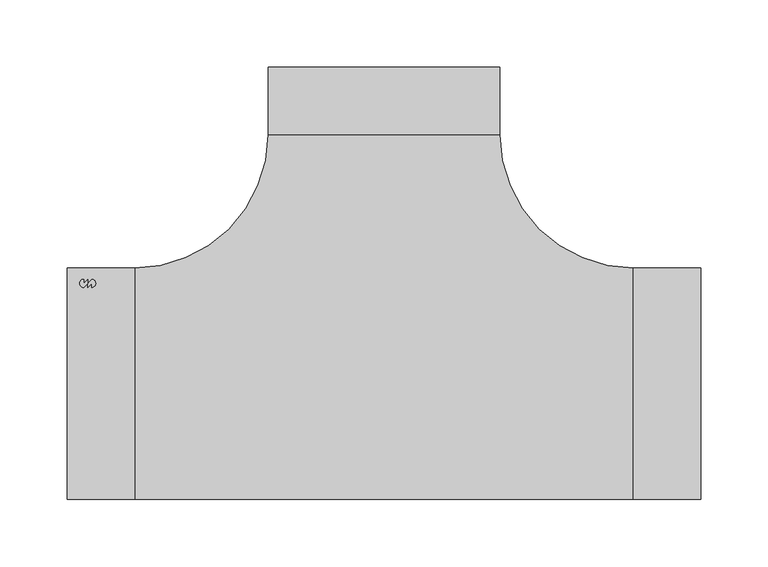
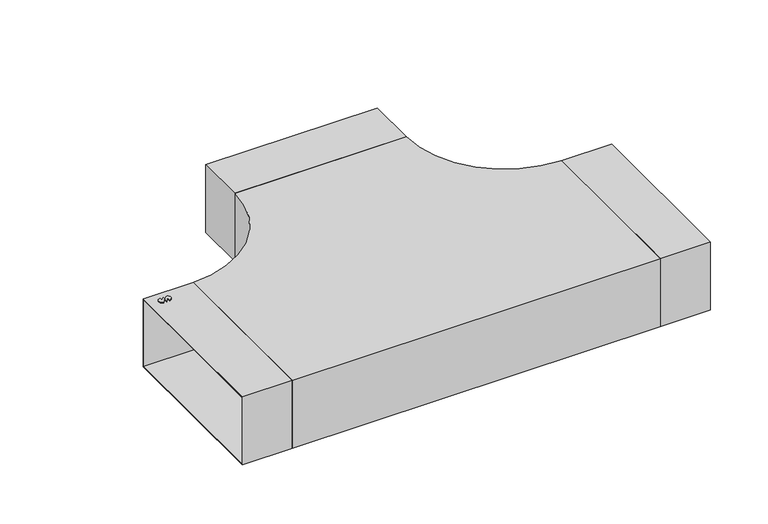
"""IFC4 building model written with IfcOpenShell, lengths in millimetres: duct fitting geometry, NLRS_57_DUF_UN_instortkanaal-stromend-T-stuk-90_LT_velu : T-stuk 90 stromend."""

import ifcopenshell
import ifcopenshell.guid

model = None  # the IFC model being written
_history = None  # IfcOwnerHistory: only IFC2X3 demands one
_inside = {}  # id of a spatial element -> (the spatial element, [elements in it])
_under = {}  # id of a project, library or spatial element -> (it, [spatial elements below it])
_declared = {}  # id of a project -> (the project, [libraries it declares])
_typed = {}  # id of a type object -> (the type object, [elements of that type])
_made_of = {}  # id of a material, layer set ... -> (it, [elements and type objects made of it])


def new_model(schema):
    """Start an empty IFC model of exactly this schema.

    Asked for "IFC4X3", IfcOpenShell would pick the latest addendum, in which some entities
    have other attributes; the version numbers below select the first issue.
    IFC2X3 requires an IfcOwnerHistory on every rooted entity: one is made here for all.
    """
    global model, _history
    if schema == "IFC4X3":
        model = ifcopenshell.file(schema_version=(4, 3, 0, 0))
    else:
        model = ifcopenshell.file(schema=schema)
    _inside.clear()
    _under.clear()
    _declared.clear()
    _typed.clear()
    _made_of.clear()
    _history = None
    if model.schema == "IFC2X3":
        org = make("IfcOrganization", Name="unknown")
        user = make(
            "IfcPersonAndOrganization",
            ThePerson=make("IfcPerson", FamilyName="unknown"),
            TheOrganization=org,
        )
        app = make(
            "IfcApplication",
            ApplicationDeveloper=org,
            Version="unknown",
            ApplicationFullName="unknown",
            ApplicationIdentifier="unknown",
        )
        _history = make(
            "IfcOwnerHistory",
            OwningUser=user,
            OwningApplication=app,
            ChangeAction="ADDED",
            CreationDate=0,
        )
    return model


def make(cls, **values):
    """One entity of the class cls with the attributes given. An attribute that is None is left unset."""
    return model.create_entity(
        cls, **{name: value for name, value in values.items() if value is not None}
    )


def rooted(cls, **values):
    """An entity with a GlobalId (a new one), such as an element, a storey or a relation."""
    return make(cls, GlobalId=ifcopenshell.guid.new(), OwnerHistory=_history, **values)


def si_unit(unit_type, name, prefix=None):
    """IfcSIUnit, for example si_unit("LENGTHUNIT", "METRE", prefix="MILLI")."""
    return make("IfcSIUnit", UnitType=unit_type, Prefix=prefix, Name=name)


def assignment(units):
    """IfcUnitAssignment: the units of a project."""
    return None if units is None else make("IfcUnitAssignment", Units=units)


def point(xyz):
    """IfcCartesianPoint."""
    return None if xyz is None else make("IfcCartesianPoint", Coordinates=xyz)


def direction(xyz):
    """IfcDirection."""
    return None if xyz is None else make("IfcDirection", DirectionRatios=xyz)


def frame(location, z_axis=None, x_axis=None):
    """IfcAxis2Placement3D, a coordinate frame: its origin and axes. An axis left out is left unset."""
    return make(
        "IfcAxis2Placement3D",
        Location=point(location),
        Axis=direction(z_axis),
        RefDirection=direction(x_axis),
    )


def frame_2d(location, x_axis=None):
    """IfcAxis2Placement2D, a coordinate frame in the plane: its origin and x axis."""
    return make(
        "IfcAxis2Placement2D", Location=point(location), RefDirection=direction(x_axis)
    )


def origin():
    """The frame at (0, 0, 0) with its axes left unset."""
    return frame((0.0, 0.0, 0.0))


def place(relative_to, where):
    """IfcLocalPlacement: puts the frame where relative to a parent placement (None: the world)."""
    return make(
        "IfcLocalPlacement", PlacementRelTo=relative_to, RelativePlacement=where
    )


def context(
    kind, dimensions, precision=None, world=None, true_north=None, identifier=None
):
    """IfcGeometricRepresentationContext, for example the 3D "Model" context."""
    return make(
        "IfcGeometricRepresentationContext",
        ContextIdentifier=identifier,
        ContextType=kind,
        CoordinateSpaceDimension=dimensions,
        Precision=precision,
        WorldCoordinateSystem=world,
        TrueNorth=true_north,
    )


def project(units=None, contexts=None):
    """IfcProject with its units and contexts."""
    return rooted(
        "IfcProject",
        Name="project",
        RepresentationContexts=contexts,
        UnitsInContext=assignment(units),
    )


def spatial(cls, under=None, at=None, **own):
    """A site, building, storey or space (cls), placed at a placement, below another one or the project."""
    s = rooted(cls, ObjectPlacement=at, **own)
    if under is not None:
        _under.setdefault(under.id(), (under, []))[1].append(s)
    return s


def polyline(points):
    """IfcPolyline through the points."""
    return make("IfcPolyline", Points=[point(p) for p in points])


def circle_curve(where, radius):
    """IfcCircle in the frame where."""
    return make("IfcCircle", Position=where, Radius=radius)


def trimmed(basis, trim1, trim2, sense, master):
    """IfcTrimmedCurve: the piece of a basis curve between two trims."""
    return make(
        "IfcTrimmedCurve",
        BasisCurve=basis,
        Trim1=trim1,
        Trim2=trim2,
        SenseAgreement=sense,
        MasterRepresentation=master,
    )


def segment(curve, same_sense, transition):
    """IfcCompositeCurveSegment."""
    return make(
        "IfcCompositeCurveSegment",
        Transition=transition,
        SameSense=same_sense,
        ParentCurve=curve,
    )


def composite_curve(segments, self_intersect=None):
    """IfcCompositeCurve: segments joined end to end."""
    return make("IfcCompositeCurve", Segments=segments, SelfIntersect=self_intersect)


def outline(outer, holes=None, kind="AREA"):
    """IfcArbitraryClosedProfileDef: a profile drawn as a closed curve; with holes, ...WithVoids."""
    if holes is None:
        return make("IfcArbitraryClosedProfileDef", ProfileType=kind, OuterCurve=outer)
    return make(
        "IfcArbitraryProfileDefWithVoids",
        ProfileType=kind,
        OuterCurve=outer,
        InnerCurves=holes,
    )


def extrude(swept, where, along, depth):
    """IfcExtrudedAreaSolid: the profile swept, set in the frame where, extruded along a direction by depth."""
    return make(
        "IfcExtrudedAreaSolid",
        SweptArea=swept,
        Position=where,
        ExtrudedDirection=direction(along),
        Depth=depth,
    )


def shape(context_of_items, identifier, shape_type, items):
    """IfcShapeRepresentation: the items that make up one representation, for example the "Body"."""
    return make(
        "IfcShapeRepresentation",
        ContextOfItems=context_of_items,
        RepresentationIdentifier=identifier,
        RepresentationType=shape_type,
        Items=items,
    )


def source(mapping_origin, context_of_items, identifier, shape_type, items):
    """IfcRepresentationMap: a shape defined once, which mapped items show again and again."""
    return make(
        "IfcRepresentationMap",
        MappingOrigin=mapping_origin,
        MappedRepresentation=shape(context_of_items, identifier, shape_type, items),
    )


def transform(
    local_origin,
    x_axis=None,
    y_axis=None,
    z_axis=None,
    scale=None,
    scale2=None,
    scale3=None,
    uniform=True,
):
    """IfcCartesianTransformationOperator3D, or its non-uniform kind. x_axis, y_axis, z_axis: its Axis1, 2, 3."""
    if uniform:
        return make(
            "IfcCartesianTransformationOperator3D",
            Axis1=direction(x_axis),
            Axis2=direction(y_axis),
            LocalOrigin=point(local_origin),
            Scale=scale,
            Axis3=direction(z_axis),
        )
    return make(
        "IfcCartesianTransformationOperator3DnonUniform",
        Axis1=direction(x_axis),
        Axis2=direction(y_axis),
        LocalOrigin=point(local_origin),
        Scale=scale,
        Axis3=direction(z_axis),
        Scale2=scale2,
        Scale3=scale3,
    )


def mapped(mapping_source, mapping_target):
    """IfcMappedItem: shows the shape of a source again, moved by a transform."""
    return make(
        "IfcMappedItem", MappingSource=mapping_source, MappingTarget=mapping_target
    )


def made_of(thing, what):
    """Note that an element or type object is made of a material, layer set ...; save() writes the relation."""
    if what is not None:
        _made_of.setdefault(what.id(), (what, []))[1].append(thing)
    return thing


def element(
    cls,
    number,
    at=None,
    inside=None,
    cuts=None,
    type_object=None,
    material=None,
    context=None,
    identifier="Body",
    shape_type=None,
    held_by="IfcProductDefinitionShape",
    body=None,
    shapes=None,
    **own,
):
    """One element of the class cls, such as IfcWall. Its Tag is "e" and its number.

    at: its placement. inside: the storey or other place that contains it. cuts: it is an
    opening in that element (IfcRelVoidsElement). A single representation is given by context,
    identifier, shape_type and body (its items); several are given by shapes. held_by: the class
    of the entity that holds the representations. save() writes the other relations.
    """
    e = rooted(cls, Tag="e%d" % number, ObjectPlacement=at, **own)
    if body is not None:
        shapes = [shape(context, identifier, shape_type, body)]
    if shapes is not None:
        e.Representation = make(held_by, Representations=shapes)
    if inside is not None:
        _inside.setdefault(inside.id(), (inside, []))[1].append(e)
    if cuts is not None:
        rooted(
            "IfcRelVoidsElement", RelatingBuildingElement=cuts, RelatedOpeningElement=e
        )
    if type_object is not None:
        _typed.setdefault(type_object.id(), (type_object, []))[1].append(e)
    return made_of(e, material)


def aggregate(whole, parts):
    """IfcRelAggregates: a whole, such as a stair, and the parts it consists of."""
    return rooted("IfcRelAggregates", RelatingObject=whole, RelatedObjects=parts)


def save(model, path):
    """Write the relations noted so far, then the file.

    IfcRelAggregates (storeys below a building ...), IfcRelContainedInSpatialStructure (elements
    in a storey), IfcRelDefinesByType, IfcRelAssociatesMaterial and IfcRelDeclares: one each for
    every whole, place, type object, material and project.
    """
    for whole, parts in _under.values():
        aggregate(whole, parts)
    for where, things in _inside.values():
        rooted(
            "IfcRelContainedInSpatialStructure",
            RelatedElements=things,
            RelatingStructure=where,
        )
    for kind, things in _typed.values():
        rooted("IfcRelDefinesByType", RelatedObjects=things, RelatingType=kind)
    for what, things in _made_of.values():
        rooted("IfcRelAssociatesMaterial", RelatedObjects=things, RelatingMaterial=what)
    for by, libraries in _declared.values():
        rooted("IfcRelDeclares", RelatingContext=by, RelatedDefinitions=libraries)
    model.write(path)


def duct_fitting_cee54b72(model_context):
    return source(origin(), model_context, "Body", "SweptSolid", [
        extrude(outline(composite_curve([segment(polyline([(-217.0, 71.5), (-217.0, 74.5), (-220.0, 71.5), (-220.0, 74.5), (-217.0, 77.5)]), True, "CONTINUOUS"), segment(trimmed(circle_curve(frame_2d((-217.0, 74.5)), 3.0), [point((-217.0, 77.5))], [point((-217.0, 71.5))], False, "CARTESIAN"), True, "CONTINUOUS")], self_intersect=False)), frame((0.0, 0.0, -37.5), z_axis=(0.0, 0.0, 1.0), x_axis=(1.0, 0.0, 0.0)), (0.0, 0.0, 1.0), 1.0),
        extrude(outline(composite_curve([segment(polyline([(-223.0, 77.5), (-223.0, 74.5), (-220.0, 77.5), (-220.0, 74.5), (-223.0, 71.5)]), True, "CONTINUOUS"), segment(trimmed(circle_curve(frame_2d((-223.0, 74.5)), 3.0), [point((-223.0, 71.5))], [point((-223.0, 77.5))], False, "CARTESIAN"), True, "CONTINUOUS")], self_intersect=False)), frame((0.0, 0.0, -37.5), z_axis=(0.0, 0.0, 1.0), x_axis=(1.0, 0.0, 0.0)), (0.0, 0.0, 1.0), 1.0),
        extrude(outline(composite_curve([segment(polyline([(-223.0, 77.5), (-223.0, 74.5), (-220.0, 77.5), (-220.0, 74.5), (-223.0, 71.5)]), True, "CONTINUOUS"), segment(trimmed(circle_curve(frame_2d((-223.0, 74.5)), 3.0), [point((-223.0, 71.5))], [point((-223.0, 77.5))], False, "CARTESIAN"), True, "CONTINUOUS")], self_intersect=False)), frame((0.0, 0.0, 36.5), z_axis=(0.0, 0.0, 1.0), x_axis=(1.0, 0.0, 0.0)), (0.0, 0.0, 1.0), 1.0),
        extrude(outline(composite_curve([segment(polyline([(-217.0, 71.5), (-217.0, 74.5), (-220.0, 71.5), (-220.0, 74.5), (-217.0, 77.5)]), True, "CONTINUOUS"), segment(trimmed(circle_curve(frame_2d((-217.0, 74.5)), 3.0), [point((-217.0, 77.5))], [point((-217.0, 71.5))], False, "CARTESIAN"), True, "CONTINUOUS")], self_intersect=False)), frame((0.0, 0.0, 36.5), z_axis=(0.0, 0.0, 1.0), x_axis=(1.0, 0.0, 0.0)), (0.0, 0.0, 1.0), 1.0),
        extrude(outline(polyline([(-36.0, -86.0), (-36.0, 86.0), (36.0, 86.0), (36.0, -86.0), (-36.0, -86.0)]), holes=[polyline([(35.0, -85.0), (35.0, 85.0), (-35.0, 85.0), (-35.0, -85.0), (35.0, -85.0)])]), frame((0.0, 185.0, 0.0), z_axis=(0.0, 1.0, 0.0), x_axis=(0.0, 0.0, 1.0)), (0.0, 0.0, 1.0), 50.0),
        extrude(outline(polyline([(86.0, -36.0), (-86.0, -36.0), (-86.0, 36.0), (86.0, 36.0), (86.0, -36.0)]), holes=[polyline([(85.0, 35.0), (-85.0, 35.0), (-85.0, -35.0), (85.0, -35.0), (85.0, 35.0)])]), frame((185.0, 0.0, 0.0), z_axis=(1.0, 0.0, 0.0), x_axis=(0.0, 1.0, 0.0)), (0.0, 0.0, 1.0), 50.0),
        extrude(outline(polyline([(-86.0, 36.0), (86.0, 36.0), (86.0, -36.0), (-86.0, -36.0), (-86.0, 36.0)]), holes=[polyline([(-85.0, -35.0), (85.0, -35.0), (85.0, 35.0), (-85.0, 35.0), (-85.0, -35.0)])]), frame((-235.0, 0.0, 0.0), z_axis=(1.0, 0.0, 0.0), x_axis=(0.0, 1.0, 0.0)), (0.0, 0.0, 1.0), 50.0),
        extrude(outline(composite_curve([segment(polyline([(-86.0, 185.0), (86.0, 185.0)]), True, "CONTINUOUS"), segment(trimmed(circle_curve(frame_2d((185.0, 185.0)), 99.0), [point((86.0, 185.0))], [point((185.0, 86.0))], True, "CARTESIAN"), True, "CONTINUOUS"), segment(polyline([(185.0, 86.0), (185.0, -86.0), (-185.0, -86.0), (-185.0, 86.0)]), True, "CONTINUOUS"), segment(trimmed(circle_curve(frame_2d((-185.0, 185.0)), 99.0), [point((-185.0, 86.0))], [point((-86.0, 185.0))], True, "CARTESIAN"), True, "CONTINUOUS")], self_intersect=False)), frame((0.0, 0.0, -36.0), z_axis=(0.0, 0.0, 1.0), x_axis=(1.0, 0.0, 0.0)), (0.0, 0.0, 1.0), 72.0),
    ])


if __name__ == "__main__":
    model = new_model("IFC4")
    model_context = context("Model", 3, world=origin())
    ifc_project = project(units=[si_unit("LENGTHUNIT", "METRE", prefix="MILLI")], contexts=[model_context])
    site = spatial("IfcSite", under=ifc_project)
    building = spatial("IfcBuilding", under=site)
    placement = place(None, origin())
    duct_fitting_shape = duct_fitting_cee54b72(model_context)
    element("IfcDuctFitting", 1, ObjectType="NLRS_57_DUF_UN_instortkanaal-stromend-T-stuk-90_LT_velu : T-stuk 90 stromend", at=placement, inside=building, context=model_context, shape_type="MappedRepresentation", body=[
        mapped(duct_fitting_shape, transform((0.0, 0.0, 0.0), x_axis=(1.0, 0.0, 0.0), y_axis=(0.0, 1.0, 0.0), z_axis=(0.0, 0.0, 1.0))),
    ])
    save(model, "model.ifc")
